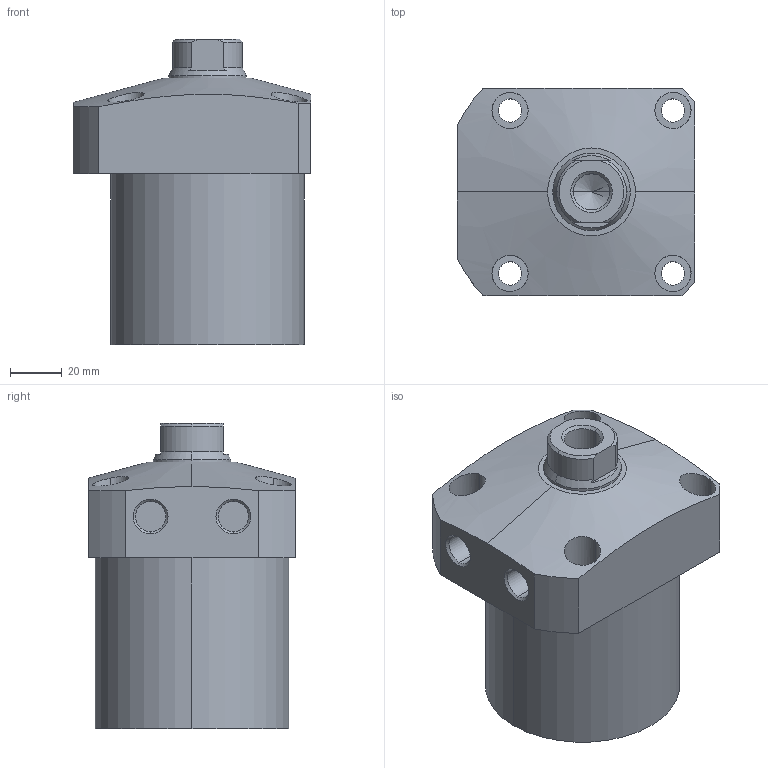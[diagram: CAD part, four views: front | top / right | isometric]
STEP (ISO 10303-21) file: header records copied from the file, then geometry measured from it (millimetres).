
FILE_DESCRIPTION (( 'STEP AP203' ), '1' );
FILE_NAME ('CLL-075CA-055.STEP', '2019-12-20T05:52:32', ( '' ), ( '' ), 'SwSTEP 2.0', 'SolidWorks 2015', '' );
FILE_SCHEMA (( 'CONFIG_CONTROL_DESIGN' ));
Length unit declared in the file: millimetre
Products named in the file (1): CLL-075CA-055
Bounding box: 92 x 80 x 118 mm (x, y, z)
Volume: 514277.3 mm3; surface area: 46826.7 mm2
Topology: 1 solids, 1 shells, 72 faces, 169 edges, 108 vertices
Faces by surface type: cylinder 35, plane 22, cone 15
Entity records: 2557 total; most frequent: CARTESIAN_POINT 792, DIRECTION 366, ORIENTED_EDGE 334, EDGE_CURVE 167, AXIS2_PLACEMENT_3D 150, VERTEX_POINT 108, EDGE_LOOP 91, CIRCLE 77
